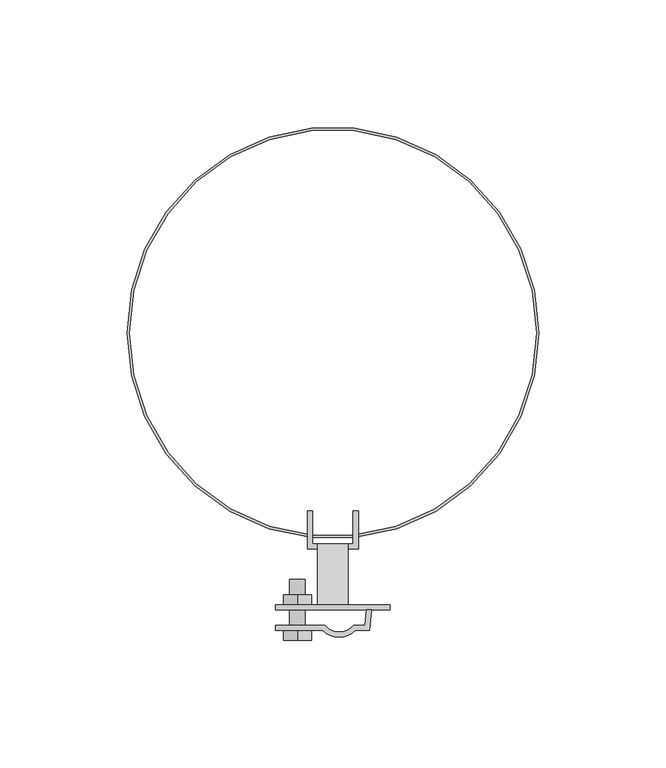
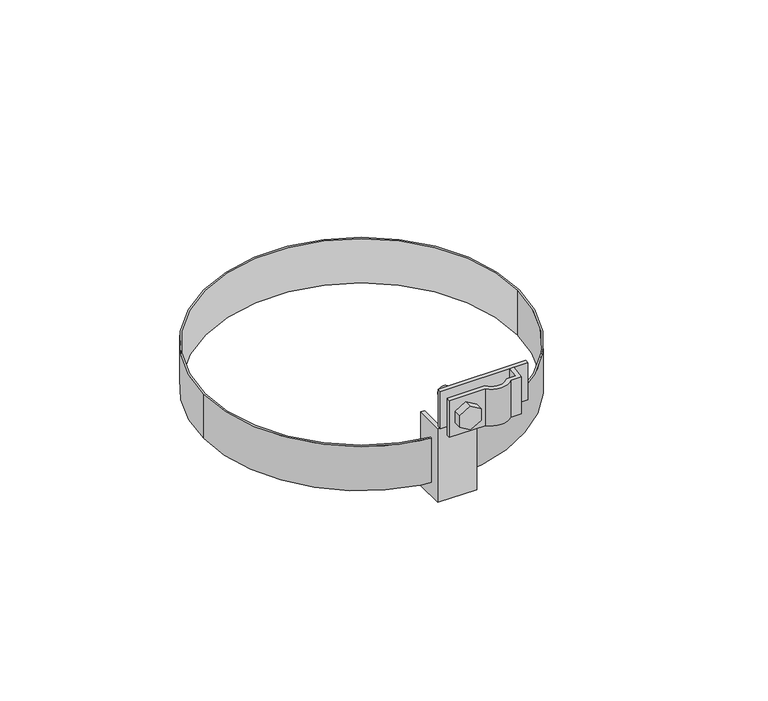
"""IFC4 building model written with IfcOpenShell, lengths in millimetres: proxy geometry, КНС_ХомутНаМеталлическуюТрубу_DKC : NG3001CU_Медь_D80-160."""

from ifc_helpers import new_model, si_unit, point, frame, frame_2d, origin, origin_2d, place, context, project, spatial, polyline, circle_curve, trimmed, segment, composite_curve, outline, extrude, source, transform, mapped, element, save


def security_devices_e27e2fcc(model_context):
    return source(origin(), model_context, "Body", "SweptSolid", [
        extrude(outline(polyline([(55.3352097, -13.9621193), (52.1676048, -19.4485719), (45.8323952, -19.4485719), (42.6647903, -13.9621193), (45.8323952, -8.4756668), (52.1676048, -8.4756668), (55.3352097, -13.9621193)])), frame((0.0, -107.0, 0.0), z_axis=(0.0, 1.0, 0.0), x_axis=(0.0, 0.0, 1.0)), (0.0, 0.0, 1.0), 4.0),
        extrude(outline(composite_curve([segment(trimmed(circle_curve(frame_2d((49.0, -13.9621193)), 3.0), [point((49.0, -16.9621193))], [point((49.0, -10.9621193))], False, "CARTESIAN"), True, "CONTINUOUS"), segment(trimmed(circle_curve(frame_2d((49.0, -13.9621193)), 3.0), [point((49.0, -10.9621193))], [point((49.0, -16.9621193))], False, "CARTESIAN"), True, "CONTINUOUS")], self_intersect=False)), frame((0.0, -115.0, 0.0), z_axis=(0.0, 1.0, 0.0), x_axis=(0.0, 0.0, 1.0)), (0.0, 0.0, 1.0), 18.0),
        extrude(outline(polyline([(55.3352097, -13.9621193), (52.1676048, -19.4485719), (45.8323952, -19.4485719), (42.6647903, -13.9621193), (45.8323952, -8.4756668), (52.1676048, -8.4756668), (55.3352097, -13.9621193)])), frame((0.0, -121.0, 0.0), z_axis=(0.0, 1.0, 0.0), x_axis=(0.0, 0.0, 1.0)), (0.0, 0.0, 1.0), 4.0),
        extrude(outline(composite_curve([segment(trimmed(circle_curve(frame_2d((2.48425, -110.7586458)), 7.0), [point((-3.0844945, -115.0))], [point((8.0529944, -115.0))], True, "CARTESIAN"), True, "CONTINUOUS"), segment(polyline([(8.0529944, -115.0), (12.6673377, -115.0), (13.1922696, -109.0), (15.1999093, -109.0), (14.5, -117.0), (8.9684999, -117.0)]), True, "CONTINUOUS"), segment(trimmed(circle_curve(frame_2d((2.48425, -110.7586458)), 9.0), [point((8.9684999, -117.0))], [point((-4.0, -117.0))], False, "CARTESIAN"), True, "CONTINUOUS"), segment(polyline([(-4.0, -117.0), (-22.5, -117.0), (-22.5, -115.0), (-3.0844945, -115.0)]), True, "CONTINUOUS")], self_intersect=False)), frame((0.0, 0.0, 39.0), z_axis=(0.0, 0.0, 1.0), x_axis=(1.0, 0.0, 0.0)), (0.0, 0.0, 1.0), 20.0),
        extrude(outline(polyline([(-109.0, 39.0), (-107.0, 39.0), (-83.0058176, 20.0), (-85.0058176, 20.0), (-109.0, 39.0)])), frame((-6.0, 0.0, 0.0), z_axis=(1.0, 0.0, 0.0), x_axis=(0.0, 1.0, 0.0)), (0.0, 0.0, 1.0), 12.0),
        extrude(outline(polyline([(-8.0, -70.0), (-8.0, -83.0), (8.0, -83.0), (8.0, -70.0), (10.0, -70.0), (10.0, -85.0), (-10.0, -85.0), (-10.0, -70.0), (-8.0, -70.0)])), frame((0.0, 0.0, -20.0), z_axis=(0.0, 0.0, 1.0), x_axis=(1.0, 0.0, 0.0)), (0.0, 0.0, 1.0), 40.0),
        extrude(outline(polyline([(22.5, -109.0), (-22.5, -109.0), (-22.5, -107.0), (22.5, -107.0), (22.5, -109.0)])), frame((0.0, 0.0, 39.0), z_axis=(0.0, 0.0, 1.0), x_axis=(1.0, 0.0, 0.0)), (0.0, 0.0, 1.0), 20.0),
        extrude(outline(composite_curve([segment(trimmed(circle_curve(origin_2d(), 81.0), [point((-81.0, 0.0))], [point((81.0, 0.0))], False, "CARTESIAN"), True, "CONTINUOUS"), segment(trimmed(circle_curve(origin_2d(), 81.0), [point((81.0, 0.0))], [point((-81.0, 0.0))], False, "CARTESIAN"), True, "CONTINUOUS")], self_intersect=False), holes=[composite_curve([segment(trimmed(circle_curve(origin_2d(), 80.0), [point((-80.0, 0.0))], [point((80.0, 0.0))], True, "CARTESIAN"), True, "CONTINUOUS"), segment(trimmed(circle_curve(origin_2d(), 80.0), [point((80.0, 0.0))], [point((-80.0, 0.0))], True, "CARTESIAN"), True, "CONTINUOUS")], self_intersect=False)]), frame((0.0, 0.0, -12.0), z_axis=(0.0, 0.0, 1.0), x_axis=(1.0, 0.0, 0.0)), (0.0, 0.0, 1.0), 24.0),
    ])


if __name__ == "__main__":
    model = new_model("IFC4")
    model_context = context("Model", 3, world=origin())
    ifc_project = project(units=[si_unit("LENGTHUNIT", "METRE", prefix="MILLI")], contexts=[model_context])
    site = spatial("IfcSite", under=ifc_project)
    building = spatial("IfcBuilding", under=site)
    placement = place(None, origin())
    security_devices_shape = security_devices_e27e2fcc(model_context)
    element("IfcBuildingElementProxy", 1, Name="КНС_ХомутНаМеталлическуюТрубу_DKC : NG3001CU_Медь_D80-160", ObjectType="КНС_ХомутНаМеталлическуюТрубу_DKC : NG3001CU_Медь_D80-160", at=placement, inside=building, context=model_context, shape_type="MappedRepresentation", body=[
        mapped(security_devices_shape, transform((0.0, 0.0, 0.0), x_axis=(1.0, 0.0, 0.0), y_axis=(0.0, 1.0, 0.0), z_axis=(0.0, 0.0, 1.0))),
    ])
    save(model, "model.ifc")
